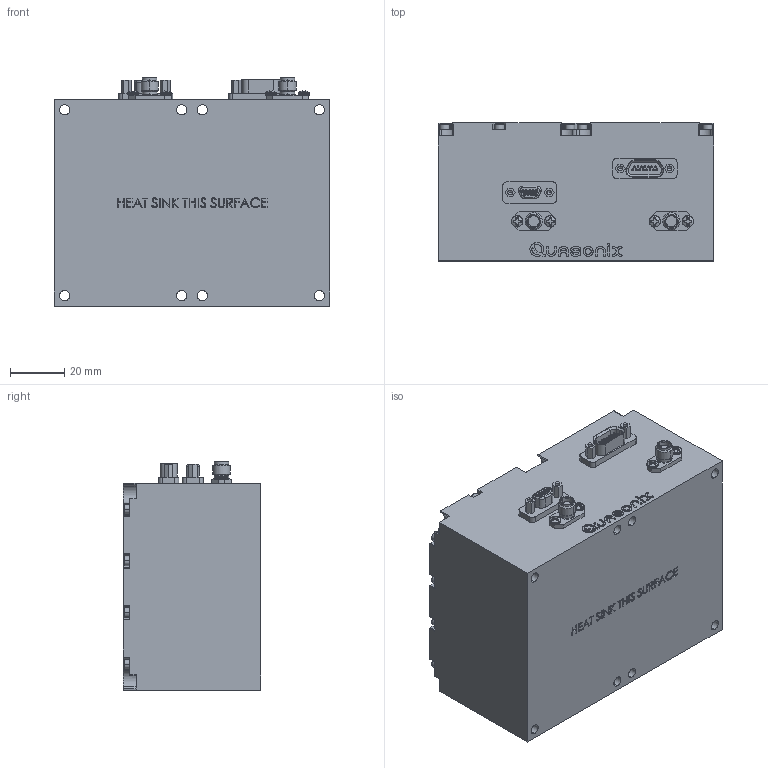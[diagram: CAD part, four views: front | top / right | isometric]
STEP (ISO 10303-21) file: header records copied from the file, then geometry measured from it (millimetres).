
FILE_DESCRIPTION (( 'STEP AP214' ), '1' );
FILE_NAME ('24AE.STEP', '2018-07-11T20:02:52', ( '' ), ( '' ), 'SwSTEP 2.0', 'SolidWorks 2018', '' );
FILE_SCHEMA (( 'AUTOMOTIVE_DESIGN' ));
Length unit declared in the file: inch
Products named in the file (1): 24AE
Bounding box: 101.6 x 50.8 x 84.14 mm (x, y, z)
Volume: 388428.4 mm3; surface area: 42583.8 mm2
Topology: 34 solids, 34 shells, 1519 faces, 3604 edges, 2272 vertices
Faces by surface type: plane 716, cylinder 363, cone 276, bspline 131, torus 25, sphere 8
Entity records: 64914 total; most frequent: CARTESIAN_POINT 13954, ORIENTED_EDGE 7208, DIRECTION 6915, EDGE_CURVE 3604, AXIS2_PLACEMENT_3D 2459, VERTEX_POINT 2272, LINE 1997, VECTOR 1997
